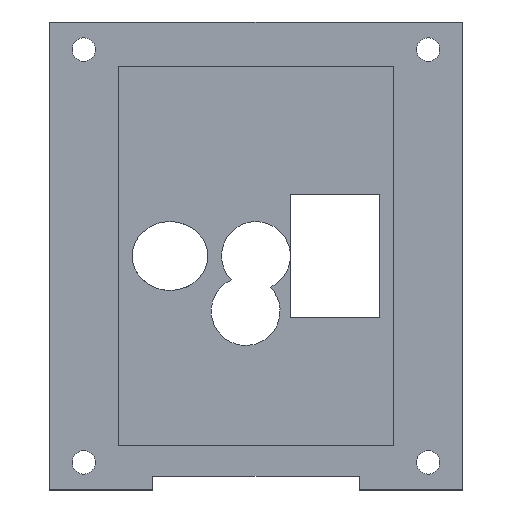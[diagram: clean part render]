
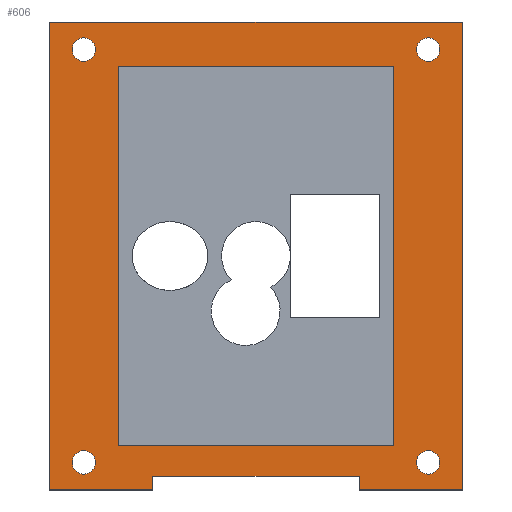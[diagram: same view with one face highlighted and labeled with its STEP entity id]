
A CAD part, top view. The second image highlights one B-rep face of the part: STEP entity #606.
In plain terms, the highlighted planar face has unit normal (0, 0, 1).
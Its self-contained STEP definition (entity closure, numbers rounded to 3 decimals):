
#24=FACE_BOUND('',#116,.T.);
#25=FACE_BOUND('',#117,.T.);
#26=FACE_BOUND('',#118,.T.);
#27=FACE_BOUND('',#119,.T.);
#28=FACE_BOUND('',#120,.T.);
#45=PLANE('',#680);
#77=FACE_OUTER_BOUND('',#115,.T.);
#115=EDGE_LOOP('',(#507,#508,#509,#510,#511,#512,#513,#514));
#116=EDGE_LOOP('',(#515));
#117=EDGE_LOOP('',(#516));
#118=EDGE_LOOP('',(#517));
#119=EDGE_LOOP('',(#518));
#120=EDGE_LOOP('',(#519,#520,#521,#522));
#143=CIRCLE('',#662,1.7);
#146=CIRCLE('',#667,1.7);
#149=CIRCLE('',#672,1.7);
#152=CIRCLE('',#677,1.7);
#182=LINE('',#977,#245);
#191=LINE('',#995,#254);
#192=LINE('',#997,#255);
#193=LINE('',#999,#256);
#194=LINE('',#1001,#257);
#195=LINE('',#1003,#258);
#196=LINE('',#1005,#259);
#197=LINE('',#1006,#260);
#198=LINE('',#1009,#261);
#199=LINE('',#1011,#262);
#200=LINE('',#1013,#263);
#201=LINE('',#1014,#264);
#245=VECTOR('',#798,1000.);
#254=VECTOR('',#811,1000.);
#255=VECTOR('',#812,1000.);
#256=VECTOR('',#813,1000.);
#257=VECTOR('',#814,1000.);
#258=VECTOR('',#815,1000.);
#259=VECTOR('',#816,1000.);
#260=VECTOR('',#817,1000.);
#261=VECTOR('',#818,1000.);
#262=VECTOR('',#819,1000.);
#263=VECTOR('',#820,1000.);
#264=VECTOR('',#821,1000.);
#297=VERTEX_POINT('',#937);
#300=VERTEX_POINT('',#947);
#303=VERTEX_POINT('',#957);
#306=VERTEX_POINT('',#967);
#309=VERTEX_POINT('',#974);
#310=VERTEX_POINT('',#976);
#317=VERTEX_POINT('',#994);
#318=VERTEX_POINT('',#996);
#319=VERTEX_POINT('',#998);
#320=VERTEX_POINT('',#1000);
#321=VERTEX_POINT('',#1002);
#322=VERTEX_POINT('',#1004);
#323=VERTEX_POINT('',#1007);
#324=VERTEX_POINT('',#1008);
#325=VERTEX_POINT('',#1010);
#326=VERTEX_POINT('',#1012);
#361=EDGE_CURVE('',#297,#297,#143,.T.);
#366=EDGE_CURVE('',#300,#300,#146,.T.);
#371=EDGE_CURVE('',#303,#303,#149,.T.);
#376=EDGE_CURVE('',#306,#306,#152,.T.);
#380=EDGE_CURVE('',#310,#309,#182,.T.);
#389=EDGE_CURVE('',#317,#309,#191,.T.);
#390=EDGE_CURVE('',#318,#317,#192,.T.);
#391=EDGE_CURVE('',#319,#318,#193,.T.);
#392=EDGE_CURVE('',#319,#320,#194,.T.);
#393=EDGE_CURVE('',#320,#321,#195,.T.);
#394=EDGE_CURVE('',#321,#322,#196,.T.);
#395=EDGE_CURVE('',#322,#310,#197,.T.);
#396=EDGE_CURVE('',#323,#324,#198,.T.);
#397=EDGE_CURVE('',#325,#323,#199,.T.);
#398=EDGE_CURVE('',#326,#325,#200,.T.);
#399=EDGE_CURVE('',#324,#326,#201,.T.);
#507=ORIENTED_EDGE('',*,*,#389,.F.);
#508=ORIENTED_EDGE('',*,*,#390,.F.);
#509=ORIENTED_EDGE('',*,*,#391,.F.);
#510=ORIENTED_EDGE('',*,*,#392,.T.);
#511=ORIENTED_EDGE('',*,*,#393,.T.);
#512=ORIENTED_EDGE('',*,*,#394,.T.);
#513=ORIENTED_EDGE('',*,*,#395,.T.);
#514=ORIENTED_EDGE('',*,*,#380,.T.);
#515=ORIENTED_EDGE('',*,*,#361,.F.);
#516=ORIENTED_EDGE('',*,*,#366,.F.);
#517=ORIENTED_EDGE('',*,*,#371,.F.);
#518=ORIENTED_EDGE('',*,*,#376,.F.);
#519=ORIENTED_EDGE('',*,*,#396,.F.);
#520=ORIENTED_EDGE('',*,*,#397,.F.);
#521=ORIENTED_EDGE('',*,*,#398,.F.);
#522=ORIENTED_EDGE('',*,*,#399,.F.);
#606=ADVANCED_FACE('',(#77,#24,#25,#26,#27,#28),#45,.T.);
#662=AXIS2_PLACEMENT_3D('',#938,#755,#756);
#667=AXIS2_PLACEMENT_3D('',#948,#767,#768);
#672=AXIS2_PLACEMENT_3D('',#958,#779,#780);
#677=AXIS2_PLACEMENT_3D('',#968,#791,#792);
#680=AXIS2_PLACEMENT_3D('',#993,#809,#810);
#755=DIRECTION('center_axis',(0.,0.,1.));
#756=DIRECTION('ref_axis',(1.,0.,0.));
#767=DIRECTION('center_axis',(0.,0.,1.));
#768=DIRECTION('ref_axis',(1.,0.,0.));
#779=DIRECTION('center_axis',(0.,0.,1.));
#780=DIRECTION('ref_axis',(1.,0.,0.));
#791=DIRECTION('center_axis',(0.,0.,1.));
#792=DIRECTION('ref_axis',(1.,0.,0.));
#798=DIRECTION('',(1.,0.,0.));
#809=DIRECTION('center_axis',(0.,0.,1.));
#810=DIRECTION('ref_axis',(1.,0.,0.));
#811=DIRECTION('',(0.,-1.,0.));
#812=DIRECTION('',(-1.,0.,0.));
#813=DIRECTION('',(0.,1.,0.));
#814=DIRECTION('',(1.,0.,0.));
#815=DIRECTION('',(0.,1.,0.));
#816=DIRECTION('',(-1.,0.,0.));
#817=DIRECTION('',(0.,-1.,0.));
#818=DIRECTION('',(0.,-1.,0.));
#819=DIRECTION('',(-1.,0.,0.));
#820=DIRECTION('',(0.,1.,0.));
#821=DIRECTION('',(1.,0.,0.));
#937=CARTESIAN_POINT('',(26.7,30.,2.));
#938=CARTESIAN_POINT('Origin',(25.,30.,2.));
#947=CARTESIAN_POINT('',(-23.3,30.,2.));
#948=CARTESIAN_POINT('Origin',(-25.,30.,2.));
#957=CARTESIAN_POINT('',(-23.3,-30.,2.));
#958=CARTESIAN_POINT('Origin',(-25.,-30.,2.));
#967=CARTESIAN_POINT('',(26.7,-30.,2.));
#968=CARTESIAN_POINT('Origin',(25.,-30.,2.));
#974=CARTESIAN_POINT('',(-15.,-34.,2.));
#976=CARTESIAN_POINT('',(-30.,-34.,2.));
#977=CARTESIAN_POINT('',(-30.,-34.,2.));
#993=CARTESIAN_POINT('Origin',(0.,0.,2.));
#994=CARTESIAN_POINT('',(-15.,-32.,2.));
#995=CARTESIAN_POINT('',(-15.,0.,2.));
#996=CARTESIAN_POINT('',(15.,-32.,2.));
#997=CARTESIAN_POINT('',(0.,-32.,2.));
#998=CARTESIAN_POINT('',(15.,-34.,2.));
#999=CARTESIAN_POINT('',(15.,0.,2.));
#1000=CARTESIAN_POINT('',(30.,-34.,2.));
#1001=CARTESIAN_POINT('',(-30.,-34.,2.));
#1002=CARTESIAN_POINT('',(30.,34.,2.));
#1003=CARTESIAN_POINT('',(30.,34.,2.));
#1004=CARTESIAN_POINT('',(-30.,34.,2.));
#1005=CARTESIAN_POINT('',(-30.,34.,2.));
#1006=CARTESIAN_POINT('',(-30.,34.,2.));
#1007=CARTESIAN_POINT('',(-20.,27.5,2.));
#1008=CARTESIAN_POINT('',(-20.,-27.5,2.));
#1009=CARTESIAN_POINT('',(-20.,-27.5,2.));
#1010=CARTESIAN_POINT('',(20.,27.5,2.));
#1011=CARTESIAN_POINT('',(20.,27.5,2.));
#1012=CARTESIAN_POINT('',(20.,-27.5,2.));
#1013=CARTESIAN_POINT('',(20.,-27.5,2.));
#1014=CARTESIAN_POINT('',(20.,-27.5,2.));
